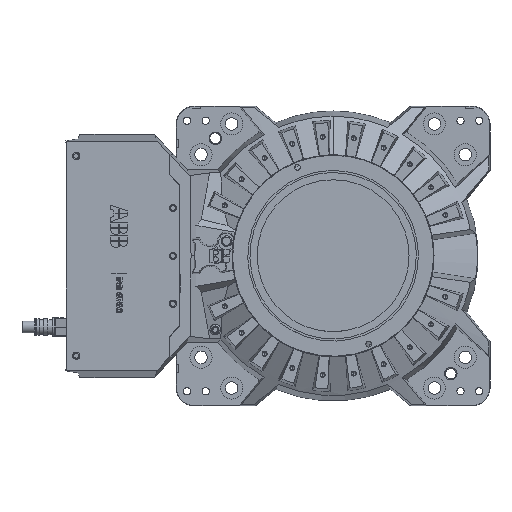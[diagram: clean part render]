
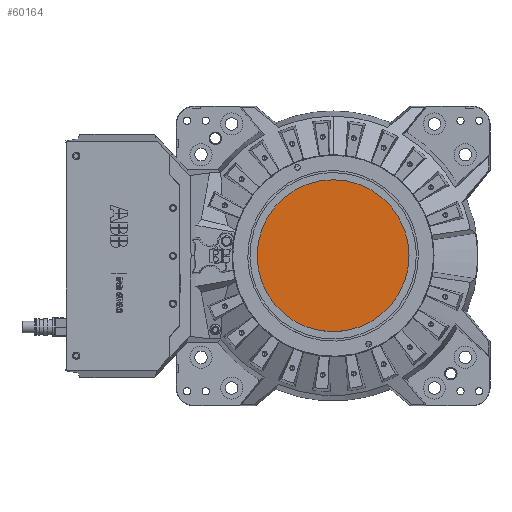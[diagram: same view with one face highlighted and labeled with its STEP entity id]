
A CAD part, top view. The second image highlights one B-rep face of the part: STEP entity #60164.
In plain terms, the highlighted planar face has unit normal (0, 0, 1).
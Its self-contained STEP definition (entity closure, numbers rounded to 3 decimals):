
#1163 = VERTEX_POINT ( 'NONE', #69589 ) ;
#1845 = CARTESIAN_POINT ( 'NONE',  ( 0., 0., 378.5 ) ) ;
#2671 = CIRCLE ( 'NONE', #59004, 182.5 ) ;
#4327 = EDGE_CURVE ( 'NONE', #6091, #1163, #2671, .T. ) ;
#6091 = VERTEX_POINT ( 'NONE', #39396 ) ;
#12771 = CIRCLE ( 'NONE', #16281, 182.5 ) ;
#13215 = DIRECTION ( 'NONE',  ( 0., 0., -1. ) ) ;
#13799 = FACE_OUTER_BOUND ( 'NONE', #63451, .T. ) ;
#16281 = AXIS2_PLACEMENT_3D ( 'NONE', #1845, #13215, #30084 ) ;
#18564 = DIRECTION ( 'NONE',  ( 0., 1., 0. ) ) ;
#30084 = DIRECTION ( 'NONE',  ( 0., 1., 0. ) ) ;
#33230 = DIRECTION ( 'NONE',  ( 0., 0., -1. ) ) ;
#33609 = CARTESIAN_POINT ( 'NONE',  ( 0., 0., 378.5 ) ) ;
#36856 = DIRECTION ( 'NONE',  ( 0., 0., -1. ) ) ;
#38778 = DIRECTION ( 'NONE',  ( 0., 1., 0. ) ) ;
#39396 = CARTESIAN_POINT ( 'NONE',  ( 0., 182.5, 378.5 ) ) ;
#40114 = AXIS2_PLACEMENT_3D ( 'NONE', #53469, #36856, #18564 ) ;
#41771 = PLANE ( 'NONE',  #40114 ) ;
#43996 = ORIENTED_EDGE ( 'NONE', *, *, #69242, .F. ) ;
#53469 = CARTESIAN_POINT ( 'NONE',  ( 182.5, 0., 378.5 ) ) ;
#57485 = ORIENTED_EDGE ( 'NONE', *, *, #4327, .F. ) ;
#59004 = AXIS2_PLACEMENT_3D ( 'NONE', #33609, #33230, #38778 ) ;
#60164 = ADVANCED_FACE ( 'NONE', ( #13799 ), #41771, .F. ) ;
#63451 = EDGE_LOOP ( 'NONE', ( #57485, #43996 ) ) ;
#69242 = EDGE_CURVE ( 'NONE', #1163, #6091, #12771, .T. ) ;
#69589 = CARTESIAN_POINT ( 'NONE',  ( 0., -182.5, 378.5 ) ) ;
